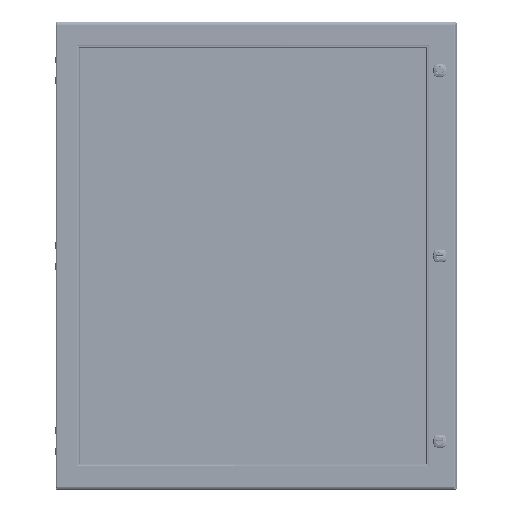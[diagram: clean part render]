
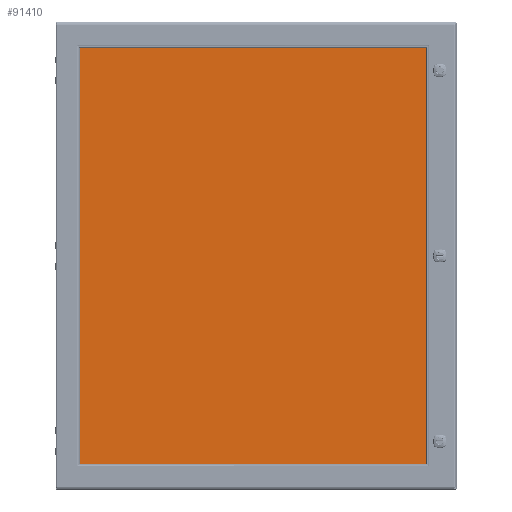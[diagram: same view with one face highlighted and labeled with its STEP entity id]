
A CAD part, top view. The second image highlights one B-rep face of the part: STEP entity #91410.
In plain terms, the highlighted planar face has unit normal (0, 0, 1).
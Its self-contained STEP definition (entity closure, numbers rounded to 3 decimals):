
#10289=LINE('',#155114,#16683);
#10295=LINE('',#155134,#16689);
#10298=LINE('',#155142,#16692);
#10300=LINE('',#155148,#16694);
#16683=VECTOR('',#111657,0.394);
#16689=VECTOR('',#111677,0.394);
#16692=VECTOR('',#111686,0.394);
#16694=VECTOR('',#111694,0.394);
#24317=FACE_OUTER_BOUND('',#29853,.T.);
#29853=EDGE_LOOP('',(#70739,#70740,#70741,#70742,#70743,#70744,#70745,#70746));
#34596=CIRCLE('',#98848,0.25);
#34601=CIRCLE('',#98856,0.25);
#34602=CIRCLE('',#98859,0.25);
#34603=CIRCLE('',#98862,0.25);
#39770=VERTEX_POINT('',#155101);
#39771=VERTEX_POINT('',#155102);
#39775=VERTEX_POINT('',#155112);
#39781=VERTEX_POINT('',#155128);
#39782=VERTEX_POINT('',#155132);
#39783=VERTEX_POINT('',#155136);
#39784=VERTEX_POINT('',#155140);
#39785=VERTEX_POINT('',#155144);
#50824=EDGE_CURVE('',#39770,#39771,#34596,.T.);
#50830=EDGE_CURVE('',#39775,#39770,#10289,.T.);
#50837=EDGE_CURVE('',#39781,#39775,#34601,.T.);
#50840=EDGE_CURVE('',#39782,#39781,#10295,.T.);
#50841=EDGE_CURVE('',#39783,#39782,#34602,.T.);
#50844=EDGE_CURVE('',#39784,#39783,#10298,.T.);
#50845=EDGE_CURVE('',#39785,#39784,#34603,.T.);
#50847=EDGE_CURVE('',#39771,#39785,#10300,.T.);
#70739=ORIENTED_EDGE('',*,*,#50824,.F.);
#70740=ORIENTED_EDGE('',*,*,#50830,.F.);
#70741=ORIENTED_EDGE('',*,*,#50837,.F.);
#70742=ORIENTED_EDGE('',*,*,#50840,.F.);
#70743=ORIENTED_EDGE('',*,*,#50841,.F.);
#70744=ORIENTED_EDGE('',*,*,#50844,.F.);
#70745=ORIENTED_EDGE('',*,*,#50845,.F.);
#70746=ORIENTED_EDGE('',*,*,#50847,.F.);
#87766=PLANE('',#98864);
#91410=ADVANCED_FACE('',(#24317),#87766,.T.);
#98848=AXIS2_PLACEMENT_3D('',#155103,#111647,#111648);
#98856=AXIS2_PLACEMENT_3D('',#155129,#111671,#111672);
#98859=AXIS2_PLACEMENT_3D('',#155137,#111680,#111681);
#98862=AXIS2_PLACEMENT_3D('',#155145,#111689,#111690);
#98864=AXIS2_PLACEMENT_3D('',#155149,#111695,#111696);
#111647=DIRECTION('center_axis',(0.,0.,-1.));
#111648=DIRECTION('ref_axis',(-0.707,-0.707,0.));
#111657=DIRECTION('',(-1.,0.,0.));
#111671=DIRECTION('center_axis',(0.,0.,-1.));
#111672=DIRECTION('ref_axis',(0.707,-0.707,0.));
#111677=DIRECTION('',(0.,-1.,0.));
#111680=DIRECTION('center_axis',(0.,0.,-1.));
#111681=DIRECTION('ref_axis',(0.707,0.707,0.));
#111686=DIRECTION('',(1.,0.,0.));
#111689=DIRECTION('center_axis',(0.,0.,-1.));
#111690=DIRECTION('ref_axis',(-0.707,0.707,0.));
#111694=DIRECTION('',(0.,1.,0.));
#111695=DIRECTION('center_axis',(0.,0.,1.));
#111696=DIRECTION('ref_axis',(1.,0.,0.));
#155101=CARTESIAN_POINT('',(-15.813,-19.188,0.25));
#155102=CARTESIAN_POINT('',(-16.063,-18.938,0.25));
#155103=CARTESIAN_POINT('Origin',(-15.813,-18.938,0.25));
#155112=CARTESIAN_POINT('',(15.813,-19.188,0.25));
#155114=CARTESIAN_POINT('',(-16.063,-19.188,0.25));
#155128=CARTESIAN_POINT('',(16.063,-18.938,0.25));
#155129=CARTESIAN_POINT('Origin',(15.813,-18.938,0.25));
#155132=CARTESIAN_POINT('',(16.063,18.938,0.25));
#155134=CARTESIAN_POINT('',(16.063,-19.188,0.25));
#155136=CARTESIAN_POINT('',(15.813,19.188,0.25));
#155137=CARTESIAN_POINT('Origin',(15.813,18.938,0.25));
#155140=CARTESIAN_POINT('',(-15.813,19.188,0.25));
#155142=CARTESIAN_POINT('',(16.063,19.188,0.25));
#155144=CARTESIAN_POINT('',(-16.063,18.938,0.25));
#155145=CARTESIAN_POINT('Origin',(-15.813,18.938,0.25));
#155148=CARTESIAN_POINT('',(-16.063,19.188,0.25));
#155149=CARTESIAN_POINT('Origin',(0.,0.,
0.25));
